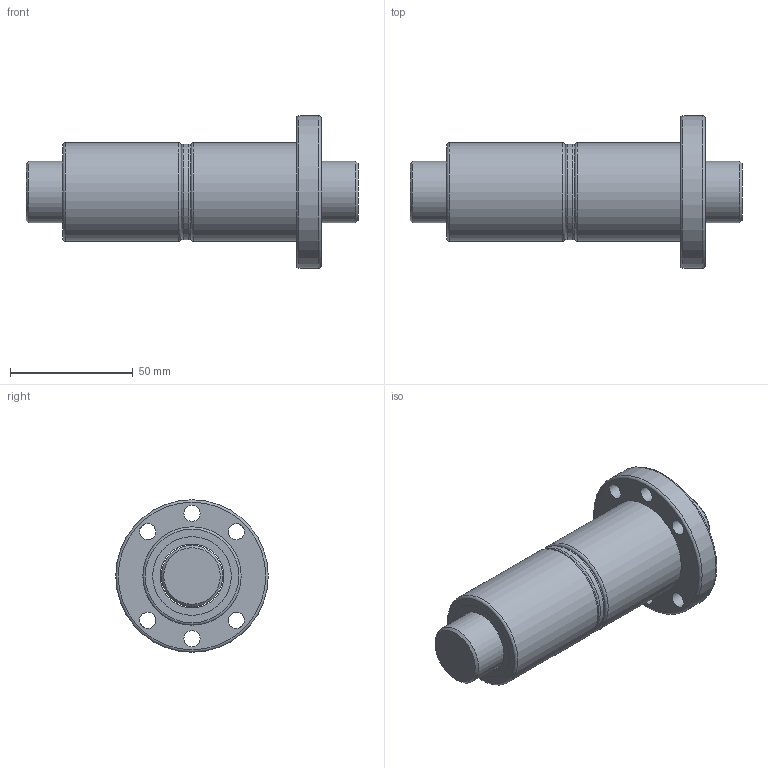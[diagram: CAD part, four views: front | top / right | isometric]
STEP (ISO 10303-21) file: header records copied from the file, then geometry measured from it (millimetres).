
FILE_DESCRIPTION(/* description */ (''),/* implementation_level */ '2;1');
FILE_NAME(/* name */ 'DFU2506',/* time_stamp */ '2007-10-26T10:54:15+08:00',/* author */ (''),/* organization */ (''),/* preprocessor_version */ 'ST-DEVELOPER v9',/* originating_system */ 'EDS PLM SOLUTIONS - UNIGRAPHICS NX 1.0',/* authorisation */ '');
FILE_SCHEMA (('CONFIG_CONTROL_DESIGN'));
Length unit declared in the file: millimetre
Products named in the file (1): FANNDA0400cq
Bounding box: 135 x 62 x 62 mm (x, y, z)
Volume: 157499.3 mm3; surface area: 45195 mm2
Topology: 6 solids, 6 shells, 44 faces, 83 edges, 54 vertices
Faces by surface type: cylinder 20, plane 15, torus 7, cone 2
Full cylindrical faces by diameter (mm): 6.6 x6, 25 x1, 26 x5, 32 x4, 39 x1, 40 x2, 62 x1
Entity records: 1054 total; most frequent: DIRECTION 188, CARTESIAN_POINT 143, EDGE_LOOP 98, ORIENTED_EDGE 98, AXIS2_PLACEMENT_3D 94, FACE_BOUND 81, VERTEX_POINT 49, EDGE_CURVE 49
